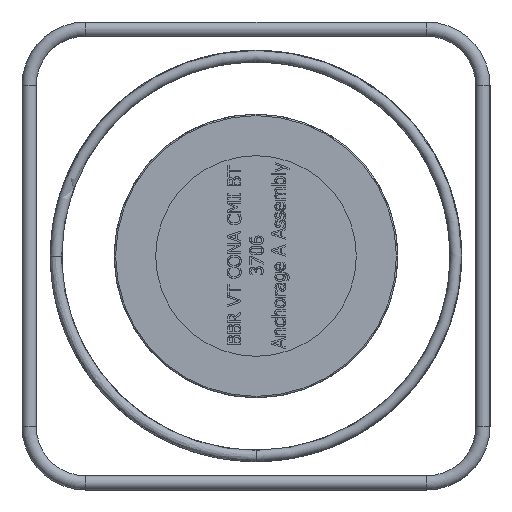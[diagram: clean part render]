
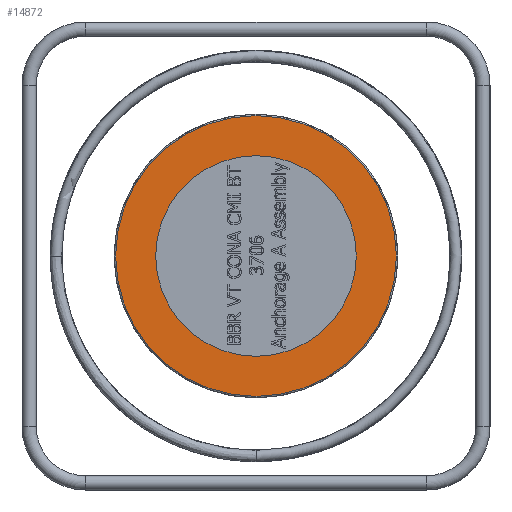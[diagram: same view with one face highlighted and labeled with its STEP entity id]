
A CAD part, left-side view. The second image highlights one B-rep face of the part: STEP entity #14872.
In plain terms, the highlighted planar face has unit normal (-1, 0, 0).
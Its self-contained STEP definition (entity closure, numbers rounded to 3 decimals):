
#89=FACE_BOUND('',#5132,.T.);
#1345=PLANE('',#15417);
#4297=FACE_OUTER_BOUND('',#5131,.T.);
#5131=EDGE_LOOP('',(#12493));
#5132=EDGE_LOOP('',(#12494));
#5323=CIRCLE('',#15413,141.5);
#5326=CIRCLE('',#15418,198.);
#6755=VERTEX_POINT('',#25824);
#6762=VERTEX_POINT('',#25899);
#8709=EDGE_CURVE('',#6755,#6755,#5323,.T.);
#8716=EDGE_CURVE('',#6762,#6762,#5326,.T.);
#12493=ORIENTED_EDGE('',*,*,#8716,.T.);
#12494=ORIENTED_EDGE('',*,*,#8709,.T.);
#14872=ADVANCED_FACE('',(#4297,#89),#1345,.T.);
#15413=AXIS2_PLACEMENT_3D('',#25826,#17640,#17641);
#15417=AXIS2_PLACEMENT_3D('',#25898,#17648,#17649);
#15418=AXIS2_PLACEMENT_3D('',#25900,#17650,#17651);
#17640=DIRECTION('center_axis',(1.,0.,0.));
#17641=DIRECTION('ref_axis',(0.,1.,0.));
#17648=DIRECTION('center_axis',(-1.,0.,0.));
#17649=DIRECTION('ref_axis',(0.,0.,
1.));
#17650=DIRECTION('center_axis',(-1.,0.,0.));
#17651=DIRECTION('ref_axis',(0.,-1.,0.));
#25824=CARTESIAN_POINT('',(-275.,-141.5,0.));
#25826=CARTESIAN_POINT('Origin',(-275.,0.,0.));
#25898=CARTESIAN_POINT('Origin',(-275.,-156.25,0.));
#25899=CARTESIAN_POINT('',(-275.,0.,-198.));
#25900=CARTESIAN_POINT('Origin',(-275.,0.,0.));
